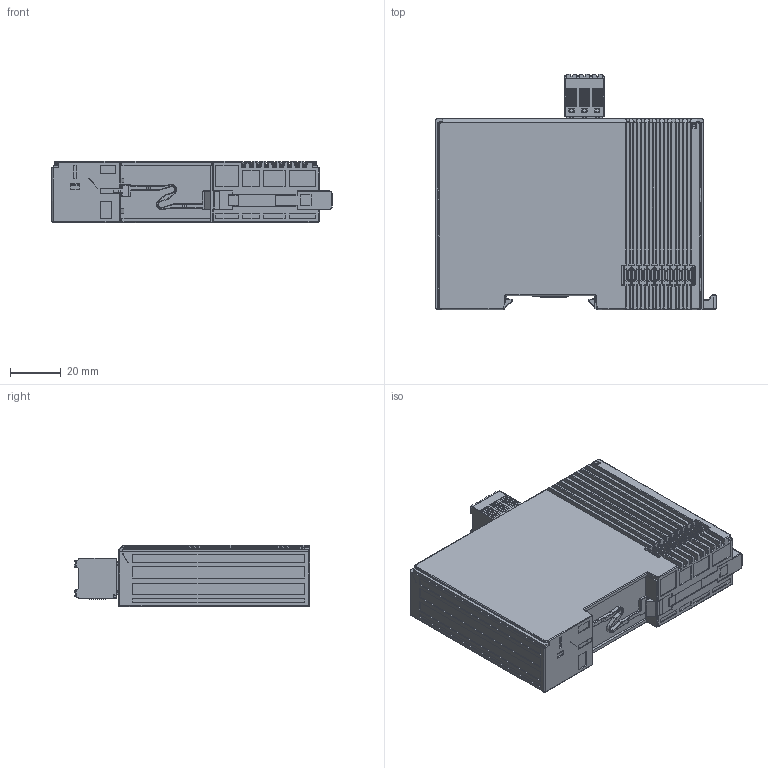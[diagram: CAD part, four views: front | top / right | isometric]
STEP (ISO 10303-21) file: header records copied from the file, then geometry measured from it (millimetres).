
FILE_DESCRIPTION((''),'2;1');
FILE_NAME('PRT0004','2024-11-04T15:11:39',('Administrator'),(''),'CREO PARAMETRIC BY PTC INC, 2018050','CREO PARAMETRIC BY PTC INC, 2018050','');
FILE_SCHEMA(('AUTOMOTIVE_DESIGN { 1 0 10303 214 1 1 1 1 }'));
Products named in the file (1): PRT0004
Bounding box: 110 x 92.4 x 24 mm (x, y, z)
Volume: 181505.2 mm3; surface area: 35353 mm2
Topology: 1 solids, 12 shells, 3335 faces, 8717 edges, 5331 vertices
Faces by surface type: plane 1833, cylinder 1038, bspline 155, torus 148, sphere 139, cone 22
Entity records: 107251 total; most frequent: CARTESIAN_POINT 26674, ORIENTED_EDGE 17182, DIRECTION 16286, EDGE_CURVE 8591, VECTOR 5682, LINE 5682, VERTEX_POINT 5331, AXIS2_PLACEMENT_3D 5302
